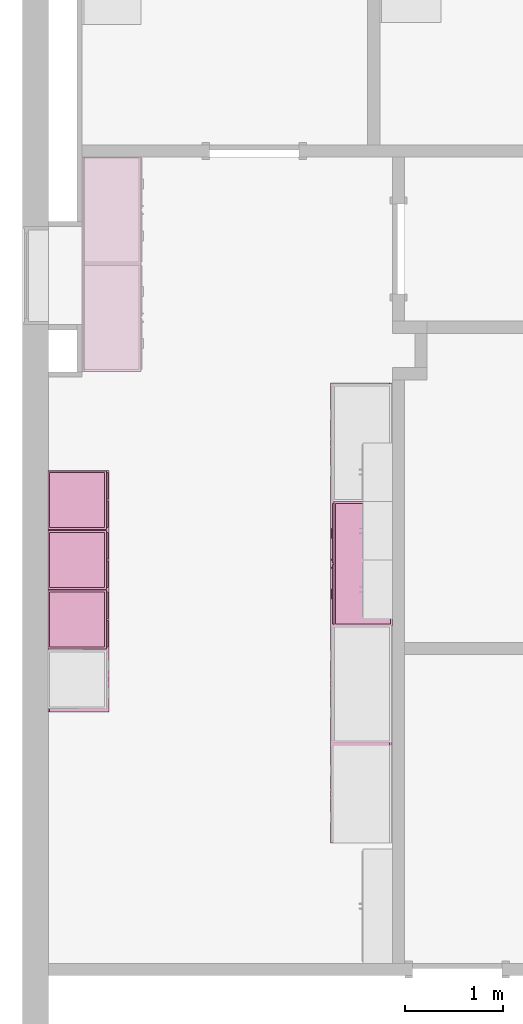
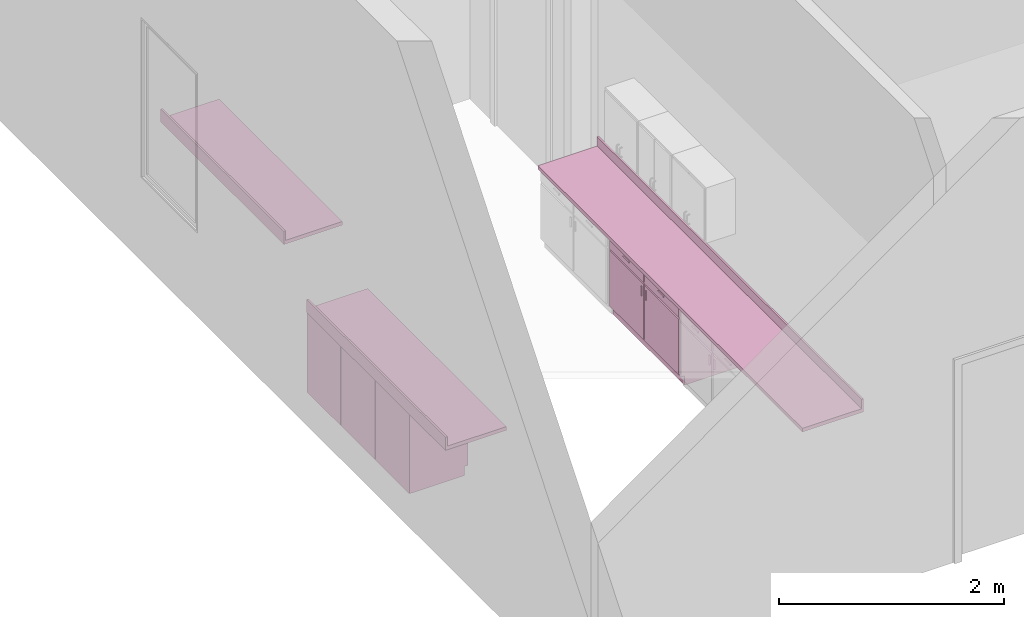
# One storey, part 41 of 45: 7 furnishings, 2 openings.
"""IFC2X3 building model written with IfcOpenShell, lengths in metres."""

from ifc_helpers import new_model, entity, si_unit, converted_unit, frame, frame_2d, origin, origin_2d_with_axis, place, context, project, spatial, polyline, circle_curve, parameter, trimmed, segment, composite_curve, rectangle, outline, extrude, face_set, surface_model, source, transform, mapped, type_object, type_shapes, element, save


model = new_model("IFC2X3")

# Units and contexts
model_context = context("Model", 3, precision=1e-09, world=origin())
plan_context = context("Plan", 3, precision=1e-09, world=origin())
ifc_project = project(units=[si_unit("LENGTHUNIT", "METRE"), si_unit("AREAUNIT", "SQUARE_METRE"), si_unit("VOLUMEUNIT", "CUBIC_METRE"), converted_unit("PLANEANGLEUNIT", "DEGREE", entity("IfcRatioMeasure", 0.01745329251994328), si_unit("PLANEANGLEUNIT", "RADIAN"), dimensions=[0, 0, 0, 0, 0, 0, 0]), si_unit("TIMEUNIT", "SECOND")], contexts=[model_context, plan_context])

# Site, building, storey, space
site_placement = place(None, origin())
site = spatial("IfcSite", under=ifc_project, at=site_placement, Name="Default", CompositionType="ELEMENT")
building_placement = place(site_placement, origin())
building = spatial("IfcBuilding", under=site, at=building_placement, CompositionType="ELEMENT")
storey_placement = place(building_placement, frame((0.0, 0.0, 4.570000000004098)))
storey = spatial("IfcBuildingStorey", under=building, at=storey_placement, Name="Second Floor", CompositionType="ELEMENT", Elevation=4.570000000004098)
space_placement = place(storey_placement, origin())
space = spatial("IfcSpace", under=storey, at=space_placement, Name="2C17", CompositionType="ELEMENT", InteriorOrExteriorSpace="INTERNAL")

# Furnishings
furniture_type_1 = type_object("IfcFurnitureType", Name="600mm", AssemblyPlace="NOTDEFINED")
shared_shape_1 = source(origin(), model_context, "Body", "SurfaceModel", [
    surface_model("IfcFaceBasedSurfaceModel", [(0.5809499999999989, 0.0444500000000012, 0.86000000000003), (0.5809499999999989, 0.0444500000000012, 0.09999999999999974), (0.01905000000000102, 0.0444500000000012, 0.09999999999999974), (0.01905000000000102, 0.0444500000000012, 0.86000000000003), (0.5999999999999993, 0.02540000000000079, 0.8600000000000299), (0.0, 0.02540000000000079, 0.8600000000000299), (0.5999999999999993, 0.02540000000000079, 0.09999999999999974), (0.0, 0.02540000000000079, 0.0999999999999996), (0.01905000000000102, 0.6063499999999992, 0.86000000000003), (0.01905000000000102, 0.6063499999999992, 0.09999999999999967), (0.01905000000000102, 0.06040000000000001, 0.09999999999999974), (0.0, 0.6253999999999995, 0.8600000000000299), (0.0, 0.6254000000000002, 0.0), (0.0, 0.06040000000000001, 0.0), (0.0, 0.06040000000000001, 0.09999999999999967), (0.5809499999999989, 0.6063499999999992, 0.86000000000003), (0.5809499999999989, 0.6063499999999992, 0.09999999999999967), (0.5999999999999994, 0.6253999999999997, 0.8600000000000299), (0.5999999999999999, 0.6253999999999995, 0.0), (0.5809499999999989, 0.06040000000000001, 0.09999999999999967), (0.5999999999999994, 0.06040000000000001, 0.09999999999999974), (0.5999999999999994, 0.06040000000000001, 0.0), (0.2103250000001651, 0.0, 0.8155500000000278), (0.2103250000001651, 0.0, 0.8028500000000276), (0.1087250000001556, 0.0, 0.8028500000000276), (0.1087250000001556, 0.0, 0.8155500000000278), (0.4912750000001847, 0.0, 0.8155500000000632), (0.4912750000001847, 0.0, 0.8028500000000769), (0.3896750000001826, 0.0, 0.8028500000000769), (0.3896750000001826, 0.0, 0.8155500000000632), (0.2650750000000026, 0.0, 0.6822000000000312), (0.2650750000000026, 0.0, 0.5806000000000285), (0.2523750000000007, 0.0, 0.5806000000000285), (0.2523750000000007, 0.0, 0.6822000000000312), (0.3476249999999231, 0.0, 0.6822000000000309), (0.3476249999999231, 0.0, 0.5806000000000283), (0.3349249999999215, 0.0, 0.5806000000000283), (0.3349249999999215, 0.0, 0.6822000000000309), (0.2103250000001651, 0.0127000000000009, 0.8155500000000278), (0.2103250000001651, 0.0127000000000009, 0.8028500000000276), (0.1087250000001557, 0.01270000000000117, 0.8028500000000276), (0.1087250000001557, 0.01270000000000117, 0.8155500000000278), (0.4912750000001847, 0.01269999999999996, 0.8155500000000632), (0.4912750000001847, 0.01269999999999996, 0.8028500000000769), (0.3896750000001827, 0.01270000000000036, 0.8028500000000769), (0.3896750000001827, 0.01270000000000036, 0.8155500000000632), (0.2650750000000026, 0.01270000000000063, 0.6822000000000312), (0.2650750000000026, 0.01270000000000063, 0.5806000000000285), (0.2523750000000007, 0.01270000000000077, 0.5806000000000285), (0.2523750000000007, 0.01270000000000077, 0.6822000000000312), (0.3476249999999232, 0.0127000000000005, 0.6822000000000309), (0.3476249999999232, 0.0127000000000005, 0.5806000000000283), (0.3349249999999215, 0.0127000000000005, 0.5806000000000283), (0.3349249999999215, 0.0127000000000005, 0.6822000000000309), (0.2904749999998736, 0.01270000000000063, 0.8409500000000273), (0.2904749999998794, 0.01270000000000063, 0.7393500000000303), (0.01905000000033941, 0.01270000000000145, 0.7393500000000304), (0.01905000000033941, 0.01270000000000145, 0.8409500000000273), (0.5809500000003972, 0.01269999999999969, 0.8409500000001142), (0.5809500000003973, 0.01269999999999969, 0.7393500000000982), (0.3095249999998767, 0.0127000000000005, 0.7393500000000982), (0.309524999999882, 0.0127000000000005, 0.8409500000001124), (0.2904749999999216, 0.01270000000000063, 0.7203000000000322), (0.290474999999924, 0.01270000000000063, 0.1190499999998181), (0.01905000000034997, 0.01270000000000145, 0.1190499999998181), (0.01905000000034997, 0.01270000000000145, 0.7203000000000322), (0.5809500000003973, 0.01269999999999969, 0.7203000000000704), (0.5809500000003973, 0.01269999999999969, 0.1190499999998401), (0.3095249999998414, 0.0127000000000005, 0.1190499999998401), (0.3095249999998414, 0.0127000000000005, 0.7203000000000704), (0.2904749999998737, 0.02540000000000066, 0.8409500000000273), (0.2904749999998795, 0.02540000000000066, 0.7393500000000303), (0.01905000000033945, 0.02540000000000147, 0.7393500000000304), (0.01905000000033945, 0.02540000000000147, 0.8409500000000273), (0.5809500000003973, 0.02539999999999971, 0.8409500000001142), (0.5809500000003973, 0.02539999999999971, 0.7393500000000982), (0.3095249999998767, 0.02540000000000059, 0.7393500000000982), (0.309524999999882, 0.02540000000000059, 0.8409500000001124), (0.2904749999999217, 0.02540000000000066, 0.7203000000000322), (0.290474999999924, 0.02540000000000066, 0.1190499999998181), (0.01905000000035, 0.02540000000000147, 0.1190499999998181), (0.01905000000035, 0.02540000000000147, 0.7203000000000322), (0.5809500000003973, 0.02539999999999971, 0.7203000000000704), (0.5809500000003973, 0.02539999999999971, 0.1190499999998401), (0.3095249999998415, 0.02540000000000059, 0.1190499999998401), (0.3095249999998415, 0.02540000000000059, 0.7203000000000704), (0.580949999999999, 0.6063499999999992, 0.1190499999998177), (0.580949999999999, 0.04445000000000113, 0.1190499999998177), (0.01905000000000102, 0.04445000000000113, 0.1190499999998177), (0.01905000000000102, 0.6063499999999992, 0.1190499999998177), (0.580949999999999, 0.6063499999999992, 0.09999999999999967), (0.580949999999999, 0.04445000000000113, 0.09999999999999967), (0.01905000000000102, 0.04445000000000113, 0.09999999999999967)], [face_set([[[0, 1, 2, 3]], [[0, 4, 5, 3]], [[4, 6, 7, 5]], [[2, 1, 6, 7]], [[3, 8, 9, 10, 2]], [[5, 11, 8, 3]], [[7, 5, 11, 12, 13, 14]], [[2, 7, 14, 10]], [[8, 15, 16, 9]], [[11, 17, 15, 8]], [[12, 11, 17, 18]], [[1, 19, 16, 15, 0]], [[0, 15, 17, 4]], [[4, 6, 20, 21, 18, 17]], [[6, 1, 19, 20]], [[10, 9, 16, 19]], [[18, 21, 13, 12]], [[13, 14, 10, 19, 20, 21]]]), face_set([[[22, 23, 24, 25]], [[26, 27, 28, 29]], [[30, 31, 32, 33]], [[34, 35, 36, 37]], [[38, 39, 40, 41]], [[42, 43, 44, 45]], [[46, 47, 48, 49]], [[50, 51, 52, 53]], [[25, 41, 38, 22]], [[24, 40, 41, 25]], [[23, 24, 40, 39]], [[22, 23, 39, 38]], [[29, 45, 42, 26]], [[28, 44, 45, 29]], [[27, 28, 44, 43]], [[26, 27, 43, 42]], [[33, 49, 46, 30]], [[32, 48, 49, 33]], [[31, 32, 48, 47]], [[30, 31, 47, 46]], [[37, 53, 50, 34]], [[36, 52, 53, 37]], [[35, 36, 52, 51]], [[34, 35, 51, 50]]]), face_set([[[54, 55, 56, 57]], [[58, 59, 60, 61]], [[62, 63, 64, 65]], [[66, 67, 68, 69]], [[70, 71, 72, 73]], [[74, 75, 76, 77]], [[78, 79, 80, 81]], [[82, 83, 84, 85]], [[57, 73, 70, 54]], [[56, 57, 73, 72]], [[55, 56, 72, 71]], [[54, 55, 71, 70]], [[61, 77, 74, 58]], [[60, 76, 77, 61]], [[59, 60, 76, 75]], [[58, 59, 75, 74]], [[65, 81, 78, 62]], [[64, 65, 81, 80]], [[63, 64, 80, 79]], [[62, 63, 79, 78]], [[69, 85, 82, 66]], [[68, 84, 85, 69]], [[67, 68, 84, 83]], [[66, 67, 83, 82]]]), face_set([[[86, 87, 88, 89]], [[90, 91, 92, 9]], [[89, 86, 90, 9]], [[88, 89, 9, 92]], [[87, 91, 92, 88]], [[86, 87, 91, 90]]])]),
])
type_shapes(furniture_type_1, [shared_shape_1])
for number, where, z_axis, x_axis in (
    (1, (-46.49500000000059, 42.34041136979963, 0.0), (0.0, 0.0, 1.0), (0.0, 1.0, 0.0)),
    (2, (-46.49500000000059, 41.73041136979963, 0.0), (0.0, 0.0, 1.0), (0.0, 1.0, 0.0)),
    (3, (-46.49500000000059, 42.95041136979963, 0.0), (0.0, 0.0, 1.0), (0.0, 1.0, 0.0)),
):
    element("IfcFurnishingElement", number, at=place(space_placement, frame(where, z_axis=z_axis, x_axis=x_axis)), inside=space, type_object=furniture_type_1, Name="M_Base Cabinet-Double Door & 2 Drawer:600mm:600mm", ObjectType="600mm", context=model_context, shape_type="MappedRepresentation", body=[
        mapped(shared_shape_1, transform((0.0, 0.0, 0.0), scale=1.0)),
    ])
furniture_type_2 = type_object("IfcFurnitureType", Name="1270mm", AssemblyPlace="NOTDEFINED")
shared_shape_2 = source(origin(), model_context, "Body", "SurfaceModel", [
    surface_model("IfcFaceBasedSurfaceModel", [(1.250949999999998, 0.04445000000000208, 0.86000000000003), (1.250949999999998, 0.04445000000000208, 0.09999999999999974), (0.01905000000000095, 0.04445000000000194, 0.09999999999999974), (0.01905000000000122, 0.04445000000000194, 0.86000000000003), (1.269999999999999, 0.02540000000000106, 0.8600000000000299), (0.0, 0.02540000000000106, 0.8600000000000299), (1.269999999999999, 0.02540000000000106, 0.09999999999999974), (0.0, 0.02540000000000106, 0.0999999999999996), (0.01905000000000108, 0.6063499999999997, 0.86000000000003), (0.01905000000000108, 0.6063499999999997, 0.09999999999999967), (0.01905000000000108, 0.06040000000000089, 0.09999999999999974), (0.0, 0.6254000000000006, 0.8600000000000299), (0.0, 0.6254000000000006, 0.0), (0.0, 0.06040000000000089, 0.0), (0.0, 0.06040000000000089, 0.09999999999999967), (1.250949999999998, 0.6063499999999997, 0.86000000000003), (1.250949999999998, 0.6063499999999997, 0.09999999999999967), (1.269999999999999, 0.6254000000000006, 0.8600000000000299), (1.269999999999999, 0.6254000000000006, 0.0), (1.250949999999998, 0.06040000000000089, 0.09999999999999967), (1.269999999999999, 0.06040000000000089, 0.09999999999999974), (1.269999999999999, 0.06040000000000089, 0.0), (0.3778250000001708, 0.0, 0.8155500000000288), (0.3778250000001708, 0.0, 0.8028500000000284), (0.276225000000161, 0.0, 0.8028500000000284), (0.276225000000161, 0.0, 0.8155500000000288), (0.9937750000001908, 0.0, 0.8155500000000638), (0.9937750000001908, 0.0, 0.8028500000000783), (0.8921750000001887, 0.0, 0.8028500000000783), (0.8921750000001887, 0.0, 0.8155500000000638), (0.6000750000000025, 0.0, 0.6822000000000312), (0.6000750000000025, 0.0, 0.5806000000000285), (0.5873750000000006, 0.0, 0.5806000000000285), (0.5873750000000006, 0.0, 0.6822000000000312), (0.6826249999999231, 0.0, 0.6822000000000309), (0.6826249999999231, 0.0, 0.5806000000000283), (0.6699249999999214, 0.0, 0.5806000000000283), (0.6699249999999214, 0.0, 0.6822000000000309), (0.3778250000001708, 0.01270000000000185, 0.8155500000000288), (0.3778250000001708, 0.01270000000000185, 0.8028500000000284), (0.2762250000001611, 0.01270000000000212, 0.8028500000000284), (0.276225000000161, 0.01270000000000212, 0.8155500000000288), (0.993775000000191, 0.01269999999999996, 0.8155500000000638), (0.993775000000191, 0.01269999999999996, 0.8028500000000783), (0.8921750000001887, 0.01270000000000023, 0.8028500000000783), (0.8921750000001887, 0.01270000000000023, 0.8155500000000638), (0.6000750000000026, 0.01270000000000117, 0.6822000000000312), (0.6000750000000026, 0.01270000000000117, 0.5806000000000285), (0.5873750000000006, 0.01270000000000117, 0.5806000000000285), (0.5873750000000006, 0.01270000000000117, 0.6822000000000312), (0.6826249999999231, 0.0127000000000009, 0.6822000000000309), (0.6826249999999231, 0.0127000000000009, 0.5806000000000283), (0.6699249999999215, 0.0127000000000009, 0.5806000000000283), (0.6699249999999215, 0.0127000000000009, 0.6822000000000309), (0.6254749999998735, 0.01270000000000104, 0.8409500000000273), (0.6254749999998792, 0.01270000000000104, 0.7393500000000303), (0.01905000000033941, 0.01270000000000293, 0.7393500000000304), (0.01905000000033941, 0.01270000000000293, 0.8409500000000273), (1.250950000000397, 0.01269999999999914, 0.8409500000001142), (1.250950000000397, 0.01269999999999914, 0.7393500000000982), (0.6445249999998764, 0.01270000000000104, 0.7393500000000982), (0.6445249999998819, 0.01270000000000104, 0.8409500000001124), (0.6254749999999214, 0.01270000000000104, 0.7203000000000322), (0.6254749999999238, 0.01270000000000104, 0.1190499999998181), (0.01905000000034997, 0.01270000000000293, 0.1190499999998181), (0.01905000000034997, 0.01270000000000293, 0.7203000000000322), (1.250950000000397, 0.01269999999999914, 0.7203000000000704), (1.250950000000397, 0.01269999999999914, 0.1190499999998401), (0.6445249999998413, 0.01270000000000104, 0.1190499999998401), (0.6445249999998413, 0.01270000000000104, 0.7203000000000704), (0.6254749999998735, 0.025400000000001, 0.8409500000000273), (0.6254749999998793, 0.025400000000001, 0.7393500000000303), (0.01905000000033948, 0.02540000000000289, 0.7393500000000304), (0.01905000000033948, 0.02540000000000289, 0.8409500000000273), (1.250950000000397, 0.0253999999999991, 0.8409500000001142), (1.250950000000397, 0.0253999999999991, 0.7393500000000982), (0.6445249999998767, 0.025400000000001, 0.7393500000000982), (0.6445249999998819, 0.025400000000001, 0.8409500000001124), (0.6254749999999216, 0.025400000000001, 0.7203000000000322), (0.625474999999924, 0.025400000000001, 0.1190499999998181), (0.01905000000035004, 0.02540000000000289, 0.1190499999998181), (0.01905000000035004, 0.02540000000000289, 0.7203000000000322), (1.250950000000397, 0.0253999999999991, 0.7203000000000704), (1.250950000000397, 0.0253999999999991, 0.1190499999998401), (0.6445249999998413, 0.025400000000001, 0.1190499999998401), (0.6445249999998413, 0.025400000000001, 0.7203000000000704), (1.250949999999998, 0.6063499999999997, 0.1190499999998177), (1.250949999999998, 0.04445000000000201, 0.1190499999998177), (0.01905000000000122, 0.04445000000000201, 0.1190499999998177), (0.01905000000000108, 0.6063499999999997, 0.1190499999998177), (1.250949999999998, 0.04445000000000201, 0.09999999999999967), (0.01905000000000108, 0.04445000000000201, 0.09999999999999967)], [face_set([[[0, 1, 2, 3]], [[0, 4, 5, 3]], [[4, 6, 7, 5]], [[2, 1, 6, 7]], [[3, 8, 9, 10, 2]], [[5, 11, 8, 3]], [[7, 5, 11, 12, 13, 14]], [[2, 7, 14, 10]], [[8, 15, 16, 9]], [[11, 17, 15, 8]], [[12, 11, 17, 18]], [[1, 19, 16, 15, 0]], [[0, 15, 17, 4]], [[4, 6, 20, 21, 18, 17]], [[6, 1, 19, 20]], [[10, 9, 16, 19]], [[18, 21, 13, 12]], [[13, 14, 10, 19, 20, 21]]]), face_set([[[22, 23, 24, 25]], [[26, 27, 28, 29]], [[30, 31, 32, 33]], [[34, 35, 36, 37]], [[38, 39, 40, 41]], [[42, 43, 44, 45]], [[46, 47, 48, 49]], [[50, 51, 52, 53]], [[25, 41, 38, 22]], [[24, 40, 41, 25]], [[23, 24, 40, 39]], [[22, 23, 39, 38]], [[29, 45, 42, 26]], [[28, 44, 45, 29]], [[27, 28, 44, 43]], [[26, 27, 43, 42]], [[33, 49, 46, 30]], [[32, 48, 49, 33]], [[31, 32, 48, 47]], [[30, 31, 47, 46]], [[37, 53, 50, 34]], [[36, 52, 53, 37]], [[35, 36, 52, 51]], [[34, 35, 51, 50]]]), face_set([[[54, 55, 56, 57]], [[58, 59, 60, 61]], [[62, 63, 64, 65]], [[66, 67, 68, 69]], [[70, 71, 72, 73]], [[74, 75, 76, 77]], [[78, 79, 80, 81]], [[82, 83, 84, 85]], [[57, 73, 70, 54]], [[56, 57, 73, 72]], [[55, 56, 72, 71]], [[54, 55, 71, 70]], [[61, 77, 74, 58]], [[60, 76, 77, 61]], [[59, 60, 76, 75]], [[58, 59, 75, 74]], [[65, 81, 78, 62]], [[64, 65, 81, 80]], [[63, 64, 80, 79]], [[62, 63, 79, 78]], [[69, 85, 82, 66]], [[68, 84, 85, 69]], [[67, 68, 84, 83]], [[66, 67, 83, 82]]]), face_set([[[86, 87, 88, 89]], [[16, 90, 91, 9]], [[89, 86, 16, 9]], [[88, 89, 9, 91]], [[87, 90, 91, 88]], [[86, 87, 90, 16]]])]),
])
type_shapes(furniture_type_2, [shared_shape_2])
furnishing_1_placement = place(space_placement, frame((-44.22540000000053, 43.23574040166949, 0.0), z_axis=(0.0, 0.0, 1.0), x_axis=(0.0, -1.0, 0.0)))
element("IfcFurnishingElement", 4, at=furnishing_1_placement, inside=space, type_object=furniture_type_2, Name="M_Base Cabinet-Double Door & 2 Drawer:1270mm:1270mm", ObjectType="1270mm", context=model_context, shape_type="MappedRepresentation", body=[
    mapped(shared_shape_2, transform((0.0, 0.0, 0.0), scale=1.0)),
])

# Furnishing, opening
furniture_type_3 = type_object("IfcFurnitureType", Name="600mm Depth", AssemblyPlace="NOTDEFINED")
shared_shape_3 = source(origin(), model_context, "Body", "SweptSolid", [
    extrude(outline(polyline([(-0.0605333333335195, -0.2146833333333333), (0.08106666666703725, -0.2146833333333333), (0.08106666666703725, -0.1956333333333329), (-0.02053333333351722, -0.1956333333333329), (-0.02053333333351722, 0.4103166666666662), (-0.0605333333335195, 0.4103166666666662), (-0.0605333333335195, -0.2146833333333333)])), frame((-1.200462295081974, -0.2146833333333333, 0.920533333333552), z_axis=(1.0, 0.0, 0.0), x_axis=(0.0, 0.0, 1.0)), (0.0, 0.0, 1.0), 4.696956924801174),
])
type_shapes(furniture_type_3, [shared_shape_3])
furnishing_2_placement = place(space_placement, frame((-43.60960000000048, 43.24657810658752, 0.0), z_axis=(0.0, 0.0, 1.0), x_axis=(0.0, -1.0, 0.0)))
furnishing_2 = element("IfcFurnishingElement", 5, at=furnishing_2_placement, inside=space, type_object=furniture_type_3, Name="M_Counter Top w Sink Hole:600mm Depth:600mm Depth", ObjectType="600mm Depth", context=model_context, shape_type="MappedRepresentation", body=[
    mapped(shared_shape_3, transform((0.0, 0.0, 0.0), scale=1.0)),
])
opening_1_placement = place(space_placement, frame((-43.60960000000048, 43.24657810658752, 0.0), z_axis=(0.0, 0.0, 1.0), x_axis=(0.0, -1.0, 0.0)))
element("IfcOpeningElement", 6, at=opening_1_placement, cuts=furnishing_2, Name="M_Counter Top w Sink Hole:600mm Depth:600mm Depth:1", ObjectType="Opening", context=model_context, shape_type="SweptSolid", body=[
    extrude(outline(composite_curve([segment(polyline([(-0.2554000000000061, -0.2017000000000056), (0.255399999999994, -0.2017000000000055)]), True, "CONTINUOUS"), segment(trimmed(circle_curve(frame_2d((0.2553999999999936, -0.1508999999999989), x_axis=(1.0, 0.0)), 0.05080000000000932), [parameter(270.0000000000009)], [parameter(1.068666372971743e-12)], True, "PARAMETER"), True, "CONTINUOUS"), segment(polyline([(0.3062000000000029, -0.1508999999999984), (0.306200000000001, 0.1509000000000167)]), True, "CONTINUOUS"), segment(trimmed(circle_curve(frame_2d((0.2554000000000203, 0.1509000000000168), x_axis=(1.0, 0.0)), 0.05079999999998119), [parameter(359.9999999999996)], [parameter(90.0000000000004)], True, "PARAMETER"), True, "CONTINUOUS"), segment(polyline([(0.2554000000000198, 0.2016999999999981), (-0.2554000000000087, 0.2016999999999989)]), True, "CONTINUOUS"), segment(trimmed(circle_curve(frame_2d((-0.2554000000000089, 0.1509000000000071), x_axis=(1.0, 0.0)), 0.0507999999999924), [parameter(90.00000000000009)], [parameter(179.9999999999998)], True, "PARAMETER"), True, "CONTINUOUS"), segment(polyline([(-0.3062000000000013, 0.150900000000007), (-0.3062000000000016, -0.1509000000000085)]), True, "CONTINUOUS"), segment(trimmed(circle_curve(frame_2d((-0.2554000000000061, -0.1509000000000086), x_axis=(1.0, 0.0)), 0.05079999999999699), [parameter(179.9999999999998)], [parameter(269.9999999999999)], True, "PARAMETER"), True, "CONTINUOUS")], self_intersect=False)), frame((0.2890000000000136, -0.8334218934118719, -3.670000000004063), z_axis=(0.0, 0.0, -1.0), x_axis=(0.0, 1.0, 0.0)), (0.0, 0.0, 1.0), 0.04000000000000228),
])

# Furnishing
furniture_type_4 = type_object("IfcFurnitureType", Name="600mm Depth", AssemblyPlace="NOTDEFINED")
shared_shape_4 = source(origin(), model_context, "Body", "SweptSolid", [
    extrude(rectangle(XDim=0.01905000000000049, YDim=2.189315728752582, at=origin_2d_with_axis()), frame((-0.1058044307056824, -0.009525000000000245, 0.9000000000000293), z_axis=(0.0, 0.0, 1.0), x_axis=(0.0, -1.0, 0.0)), (0.0, 0.0, 1.0), 0.1016000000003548),
    extrude(rectangle(XDim=2.189315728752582, YDim=0.5999999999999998, at=origin_2d_with_axis()), frame((-0.1058044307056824, -0.2999999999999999, 0.8600000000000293), z_axis=(0.0, 0.0, 1.0), x_axis=(-1.0, 0.0, 0.0)), (0.0, 0.0, 1.0), 0.04000000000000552),
])
type_shapes(furniture_type_4, [shared_shape_4])
furnishing_3_placement = place(space_placement, frame((-46.77000000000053, 45.76558527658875, 0.0), z_axis=(0.0, 0.0, 1.0), x_axis=(0.0, 1.0, 0.0)))
element("IfcFurnishingElement", 7, at=furnishing_3_placement, inside=space, type_object=furniture_type_4, Name="M_Counter Top:600mm Depth:600mm Depth", ObjectType="600mm Depth", context=model_context, shape_type="MappedRepresentation", body=[
    mapped(shared_shape_4, transform((0.0, 0.0, 0.0), scale=1.0)),
])

# Furnishing, opening
furniture_type_5 = type_object("IfcFurnitureType", Name="600mm Depth", AssemblyPlace="NOTDEFINED")
shared_shape_5 = source(origin(), model_context, "Body", "SweptSolid", [
    extrude(outline(polyline([(-0.0605333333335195, -0.2146833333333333), (0.08106666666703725, -0.2146833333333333), (0.08106666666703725, -0.1956333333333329), (-0.02053333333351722, -0.1956333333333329), (-0.02053333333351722, 0.4103166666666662), (-0.0605333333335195, 0.4103166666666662), (-0.0605333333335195, -0.2146833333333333)])), frame((-1.200462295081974, -0.2146833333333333, 0.920533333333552), z_axis=(1.0, 0.0, 0.0), x_axis=(0.0, 0.0, 1.0)), (0.0, 0.0, 1.0), 2.467147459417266),
])
type_shapes(furniture_type_5, [shared_shape_5])
furnishing_4_placement = place(space_placement, frame((-47.12040000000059, 42.28872620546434, 0.0), z_axis=(0.0, 0.0, 1.0), x_axis=(0.0, 1.0, 0.0)))
furnishing_4 = element("IfcFurnishingElement", 8, at=furnishing_4_placement, inside=space, type_object=furniture_type_5, Name="M_Counter Top w Sink Hole:600mm Depth:600mm Depth", ObjectType="600mm Depth", context=model_context, shape_type="MappedRepresentation", body=[
    mapped(shared_shape_5, transform((0.0, 0.0, 0.0), scale=1.0)),
])
opening_2_placement = place(space_placement, frame((-47.12040000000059, 42.28872620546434, 0.0), z_axis=(0.0, 0.0, 1.0), x_axis=(0.0, 1.0, 0.0)))
element("IfcOpeningElement", 9, at=opening_2_placement, cuts=furnishing_4, Name="M_Counter Top w Sink Hole:600mm Depth:600mm Depth:1", ObjectType="Opening", context=model_context, shape_type="SweptSolid", body=[
    extrude(outline(composite_curve([segment(polyline([(-0.2554000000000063, -0.2017000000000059), (0.2553999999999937, -0.2017000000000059)]), True, "CONTINUOUS"), segment(trimmed(circle_curve(frame_2d((0.2553999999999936, -0.1508999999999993), x_axis=(1.0, 0.0)), 0.05080000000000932), [parameter(270.0000000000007)], [parameter(1.068666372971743e-12)], True, "PARAMETER"), True, "CONTINUOUS"), segment(polyline([(0.3062000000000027, -0.1508999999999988), (0.3062000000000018, 0.1509000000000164)]), True, "CONTINUOUS"), segment(trimmed(circle_curve(frame_2d((0.2554000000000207, 0.1509000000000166), x_axis=(1.0, 0.0)), 0.05079999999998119), [parameter(359.9999999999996)], [parameter(90.00000000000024)], True, "PARAMETER"), True, "CONTINUOUS"), segment(polyline([(0.2554000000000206, 0.2016999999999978), (-0.2554000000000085, 0.2016999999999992)]), True, "CONTINUOUS"), segment(trimmed(circle_curve(frame_2d((-0.2554000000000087, 0.1509000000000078), x_axis=(1.0, 0.0)), 0.0507999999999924), [parameter(89.99999999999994)], [parameter(179.9999999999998)], True, "PARAMETER"), True, "CONTINUOUS"), segment(polyline([(-0.3062000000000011, 0.1509000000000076), (-0.3062000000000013, -0.1509000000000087)]), True, "CONTINUOUS"), segment(trimmed(circle_curve(frame_2d((-0.2554000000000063, -0.1509000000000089), x_axis=(1.0, 0.0)), 0.05079999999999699), [parameter(179.9999999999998)], [parameter(269.9999999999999)], True, "PARAMETER"), True, "CONTINUOUS")], self_intersect=False)), frame((-0.2890000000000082, -0.9428291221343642, -3.670000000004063), z_axis=(0.0, 0.0, -1.0), x_axis=(0.0, -1.0, 0.0)), (0.0, 0.0, 1.0), 0.04000000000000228),
])

save(model, "model.ifc")
